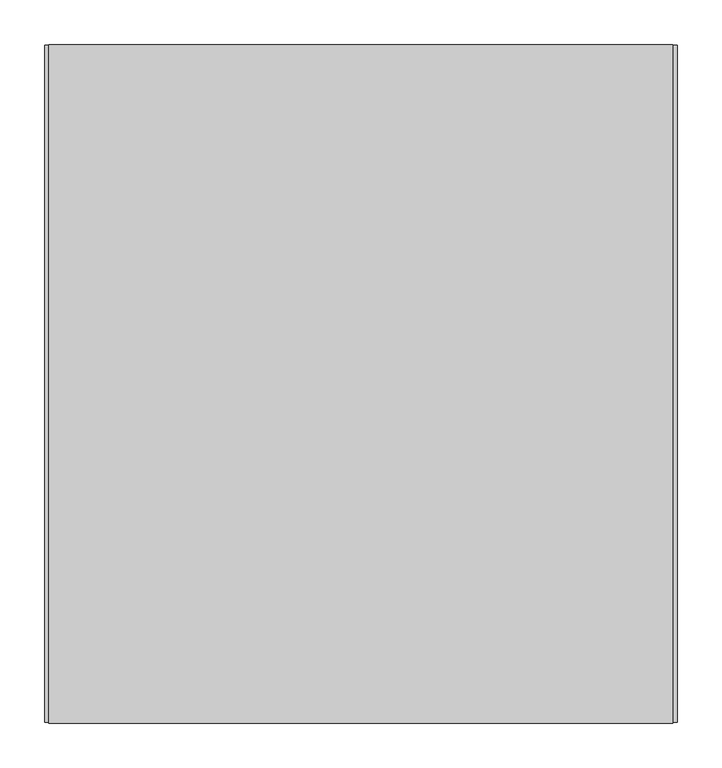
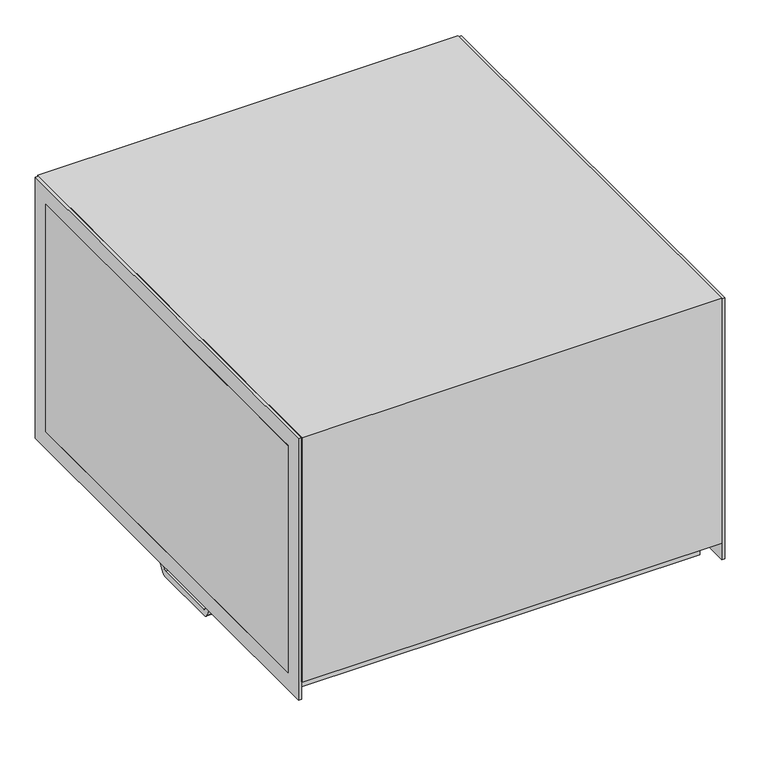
"""IFC4 building model written with IfcOpenShell, lengths in millimetres: unitary equipment geometry, VE-Wentylator-ParaForma-Harmann-DRBI_EC-Nawiewny : 070/40/4900EC."""

import ifcopenshell
import ifcopenshell.guid

model = None  # the IFC model being written
_history = None  # IfcOwnerHistory: only IFC2X3 demands one
_inside = {}  # id of a spatial element -> (the spatial element, [elements in it])
_under = {}  # id of a project, library or spatial element -> (it, [spatial elements below it])
_declared = {}  # id of a project -> (the project, [libraries it declares])
_typed = {}  # id of a type object -> (the type object, [elements of that type])
_made_of = {}  # id of a material, layer set ... -> (it, [elements and type objects made of it])


def new_model(schema):
    """Start an empty IFC model of exactly this schema.

    Asked for "IFC4X3", IfcOpenShell would pick the latest addendum, in which some entities
    have other attributes; the version numbers below select the first issue.
    IFC2X3 requires an IfcOwnerHistory on every rooted entity: one is made here for all.
    """
    global model, _history
    if schema == "IFC4X3":
        model = ifcopenshell.file(schema_version=(4, 3, 0, 0))
    else:
        model = ifcopenshell.file(schema=schema)
    _inside.clear()
    _under.clear()
    _declared.clear()
    _typed.clear()
    _made_of.clear()
    _history = None
    if model.schema == "IFC2X3":
        org = make("IfcOrganization", Name="unknown")
        user = make(
            "IfcPersonAndOrganization",
            ThePerson=make("IfcPerson", FamilyName="unknown"),
            TheOrganization=org,
        )
        app = make(
            "IfcApplication",
            ApplicationDeveloper=org,
            Version="unknown",
            ApplicationFullName="unknown",
            ApplicationIdentifier="unknown",
        )
        _history = make(
            "IfcOwnerHistory",
            OwningUser=user,
            OwningApplication=app,
            ChangeAction="ADDED",
            CreationDate=0,
        )
    return model


def make(cls, **values):
    """One entity of the class cls with the attributes given. An attribute that is None is left unset."""
    return model.create_entity(
        cls, **{name: value for name, value in values.items() if value is not None}
    )


def rooted(cls, **values):
    """An entity with a GlobalId (a new one), such as an element, a storey or a relation."""
    return make(cls, GlobalId=ifcopenshell.guid.new(), OwnerHistory=_history, **values)


def si_unit(unit_type, name, prefix=None):
    """IfcSIUnit, for example si_unit("LENGTHUNIT", "METRE", prefix="MILLI")."""
    return make("IfcSIUnit", UnitType=unit_type, Prefix=prefix, Name=name)


def assignment(units):
    """IfcUnitAssignment: the units of a project."""
    return None if units is None else make("IfcUnitAssignment", Units=units)


def point(xyz):
    """IfcCartesianPoint."""
    return None if xyz is None else make("IfcCartesianPoint", Coordinates=xyz)


def direction(xyz):
    """IfcDirection."""
    return None if xyz is None else make("IfcDirection", DirectionRatios=xyz)


def frame(location, z_axis=None, x_axis=None):
    """IfcAxis2Placement3D, a coordinate frame: its origin and axes. An axis left out is left unset."""
    return make(
        "IfcAxis2Placement3D",
        Location=point(location),
        Axis=direction(z_axis),
        RefDirection=direction(x_axis),
    )


def frame_2d(location, x_axis=None):
    """IfcAxis2Placement2D, a coordinate frame in the plane: its origin and x axis."""
    return make(
        "IfcAxis2Placement2D", Location=point(location), RefDirection=direction(x_axis)
    )


def origin():
    """The frame at (0, 0, 0) with its axes left unset."""
    return frame((0.0, 0.0, 0.0))


def place(relative_to, where):
    """IfcLocalPlacement: puts the frame where relative to a parent placement (None: the world)."""
    return make(
        "IfcLocalPlacement", PlacementRelTo=relative_to, RelativePlacement=where
    )


def context(
    kind, dimensions, precision=None, world=None, true_north=None, identifier=None
):
    """IfcGeometricRepresentationContext, for example the 3D "Model" context."""
    return make(
        "IfcGeometricRepresentationContext",
        ContextIdentifier=identifier,
        ContextType=kind,
        CoordinateSpaceDimension=dimensions,
        Precision=precision,
        WorldCoordinateSystem=world,
        TrueNorth=true_north,
    )


def project(units=None, contexts=None):
    """IfcProject with its units and contexts."""
    return rooted(
        "IfcProject",
        Name="project",
        RepresentationContexts=contexts,
        UnitsInContext=assignment(units),
    )


def spatial(cls, under=None, at=None, **own):
    """A site, building, storey or space (cls), placed at a placement, below another one or the project."""
    s = rooted(cls, ObjectPlacement=at, **own)
    if under is not None:
        _under.setdefault(under.id(), (under, []))[1].append(s)
    return s


def polyline(points):
    """IfcPolyline through the points."""
    return make("IfcPolyline", Points=[point(p) for p in points])


def circle_curve(where, radius):
    """IfcCircle in the frame where."""
    return make("IfcCircle", Position=where, Radius=radius)


def trimmed(basis, trim1, trim2, sense, master):
    """IfcTrimmedCurve: the piece of a basis curve between two trims."""
    return make(
        "IfcTrimmedCurve",
        BasisCurve=basis,
        Trim1=trim1,
        Trim2=trim2,
        SenseAgreement=sense,
        MasterRepresentation=master,
    )


def segment(curve, same_sense, transition):
    """IfcCompositeCurveSegment."""
    return make(
        "IfcCompositeCurveSegment",
        Transition=transition,
        SameSense=same_sense,
        ParentCurve=curve,
    )


def composite_curve(segments, self_intersect=None):
    """IfcCompositeCurve: segments joined end to end."""
    return make("IfcCompositeCurve", Segments=segments, SelfIntersect=self_intersect)


def outline(outer, holes=None, kind="AREA"):
    """IfcArbitraryClosedProfileDef: a profile drawn as a closed curve; with holes, ...WithVoids."""
    if holes is None:
        return make("IfcArbitraryClosedProfileDef", ProfileType=kind, OuterCurve=outer)
    return make(
        "IfcArbitraryProfileDefWithVoids",
        ProfileType=kind,
        OuterCurve=outer,
        InnerCurves=holes,
    )


def extrude(swept, where, along, depth):
    """IfcExtrudedAreaSolid: the profile swept, set in the frame where, extruded along a direction by depth."""
    return make(
        "IfcExtrudedAreaSolid",
        SweptArea=swept,
        Position=where,
        ExtrudedDirection=direction(along),
        Depth=depth,
    )


def faces_of(points, faces, orient=None, outer=None):
    """IfcFace entities. A face is a list of loops; a loop is a list of indices into points, from 0.

    orient and outer hold one flag for each loop. By default every Orientation is true, the
    first loop of a face is its IfcFaceOuterBound and the others are IfcFaceBound.
    """
    made = []
    for i, loops in enumerate(faces):
        bounds = []
        for j, loop in enumerate(loops):
            is_outer = j == 0 if outer is None else outer[i][j]
            bounds.append(
                make(
                    "IfcFaceOuterBound" if is_outer else "IfcFaceBound",
                    Bound=make("IfcPolyLoop", Polygon=[points[k] for k in loop]),
                    Orientation=True if orient is None else orient[i][j],
                )
            )
        made.append(make("IfcFace", Bounds=bounds))
    return made


def faceted_brep(points, faces, orient=None, outer=None, voids=None):
    """IfcFacetedBrep: a solid bounded by flat faces; with voids (closed shells), ...WithVoids."""
    shared = [point(p) for p in points]
    hull = make("IfcClosedShell", CfsFaces=faces_of(shared, faces, orient, outer))
    if voids is None:
        return make("IfcFacetedBrep", Outer=hull)
    return make(
        "IfcFacetedBrepWithVoids",
        Outer=hull,
        Voids=[
            make(cls, CfsFaces=faces_of(shared, fs, o, b)) for cls, fs, o, b in voids
        ],
    )


def shape(context_of_items, identifier, shape_type, items):
    """IfcShapeRepresentation: the items that make up one representation, for example the "Body"."""
    return make(
        "IfcShapeRepresentation",
        ContextOfItems=context_of_items,
        RepresentationIdentifier=identifier,
        RepresentationType=shape_type,
        Items=items,
    )


def source(mapping_origin, context_of_items, identifier, shape_type, items):
    """IfcRepresentationMap: a shape defined once, which mapped items show again and again."""
    return make(
        "IfcRepresentationMap",
        MappingOrigin=mapping_origin,
        MappedRepresentation=shape(context_of_items, identifier, shape_type, items),
    )


def transform(
    local_origin,
    x_axis=None,
    y_axis=None,
    z_axis=None,
    scale=None,
    scale2=None,
    scale3=None,
    uniform=True,
):
    """IfcCartesianTransformationOperator3D, or its non-uniform kind. x_axis, y_axis, z_axis: its Axis1, 2, 3."""
    if uniform:
        return make(
            "IfcCartesianTransformationOperator3D",
            Axis1=direction(x_axis),
            Axis2=direction(y_axis),
            LocalOrigin=point(local_origin),
            Scale=scale,
            Axis3=direction(z_axis),
        )
    return make(
        "IfcCartesianTransformationOperator3DnonUniform",
        Axis1=direction(x_axis),
        Axis2=direction(y_axis),
        LocalOrigin=point(local_origin),
        Scale=scale,
        Axis3=direction(z_axis),
        Scale2=scale2,
        Scale3=scale3,
    )


def mapped(mapping_source, mapping_target):
    """IfcMappedItem: shows the shape of a source again, moved by a transform."""
    return make(
        "IfcMappedItem", MappingSource=mapping_source, MappingTarget=mapping_target
    )


def made_of(thing, what):
    """Note that an element or type object is made of a material, layer set ...; save() writes the relation."""
    if what is not None:
        _made_of.setdefault(what.id(), (what, []))[1].append(thing)
    return thing


def element(
    cls,
    number,
    at=None,
    inside=None,
    cuts=None,
    type_object=None,
    material=None,
    context=None,
    identifier="Body",
    shape_type=None,
    held_by="IfcProductDefinitionShape",
    body=None,
    shapes=None,
    **own,
):
    """One element of the class cls, such as IfcWall. Its Tag is "e" and its number.

    at: its placement. inside: the storey or other place that contains it. cuts: it is an
    opening in that element (IfcRelVoidsElement). A single representation is given by context,
    identifier, shape_type and body (its items); several are given by shapes. held_by: the class
    of the entity that holds the representations. save() writes the other relations.
    """
    e = rooted(cls, Tag="e%d" % number, ObjectPlacement=at, **own)
    if body is not None:
        shapes = [shape(context, identifier, shape_type, body)]
    if shapes is not None:
        e.Representation = make(held_by, Representations=shapes)
    if inside is not None:
        _inside.setdefault(inside.id(), (inside, []))[1].append(e)
    if cuts is not None:
        rooted(
            "IfcRelVoidsElement", RelatingBuildingElement=cuts, RelatedOpeningElement=e
        )
    if type_object is not None:
        _typed.setdefault(type_object.id(), (type_object, []))[1].append(e)
    return made_of(e, material)


def aggregate(whole, parts):
    """IfcRelAggregates: a whole, such as a stair, and the parts it consists of."""
    return rooted("IfcRelAggregates", RelatingObject=whole, RelatedObjects=parts)


def save(model, path):
    """Write the relations noted so far, then the file.

    IfcRelAggregates (storeys below a building ...), IfcRelContainedInSpatialStructure (elements
    in a storey), IfcRelDefinesByType, IfcRelAssociatesMaterial and IfcRelDeclares: one each for
    every whole, place, type object, material and project.
    """
    for whole, parts in _under.values():
        aggregate(whole, parts)
    for where, things in _inside.values():
        rooted(
            "IfcRelContainedInSpatialStructure",
            RelatedElements=things,
            RelatingStructure=where,
        )
    for kind, things in _typed.values():
        rooted("IfcRelDefinesByType", RelatedObjects=things, RelatingType=kind)
    for what, things in _made_of.values():
        rooted("IfcRelAssociatesMaterial", RelatedObjects=things, RelatingMaterial=what)
    for by, libraries in _declared.values():
        rooted("IfcRelDeclares", RelatingContext=by, RelatedDefinitions=libraries)
    model.write(path)


def unitary_equipment_9d74fd59(model_context):
    return source(origin(), model_context, "Body", "SolidModel", [
        faceted_brep([(-342.9, -346.5, -235.5), (-342.9, -346.5, -200.0), (-342.9, 349.0, -200.0), (-342.9, 349.0, -235.5), (333.3, -346.5, -235.5), (333.3, 349.0, -235.5), (333.3, 349.0, -200.0), (333.3, -346.5, -200.0), (-350.0, -381.0, -200.0), (-350.0, -381.0, 231.0), (-350.0, 381.0, 231.0), (-350.0, 381.0, -200.0), (-350.0, 350.0, -200.0), (-350.0, 350.0, 200.0), (-350.0, -350.0, 200.0), (-350.0, -350.0, -200.0), (350.0, 381.0, -200.0), (350.0, 381.0, 231.0), (350.0, -381.0, 231.0), (350.0, -381.0, -200.0), (350.0, -350.0, -200.0), (350.0, -350.0, 200.0), (350.0, 350.0, 200.0), (350.0, 350.0, -200.0), (-355.0, -350.0, -200.0), (-355.0, 350.0, -200.0), (355.0, 350.0, -200.0), (355.0, -350.0, -200.0), (-355.0, -350.0, 200.0), (-355.0, 350.0, 200.0), (355.0, 350.0, 200.0), (355.0, -350.0, 200.0)], [[[0, 1, 2, 3]], [[4, 5, 6, 7]], [[1, 0, 4, 7]], [[3, 2, 6, 5]], [[0, 3, 5, 4]], [[8, 9, 10, 11, 12, 13, 14, 15]], [[16, 17, 18, 19, 20, 21, 22, 23]], [[9, 8, 19, 18]], [[10, 9, 18, 17]], [[11, 10, 17, 16]], [[19, 8, 15, 24, 25, 12, 11, 16, 23, 26, 27, 20], [2, 1, 7, 6]], [[24, 28, 29, 25]], [[28, 24, 15, 14]], [[29, 28, 14, 13]], [[25, 29, 13, 12]], [[27, 26, 30, 31]], [[27, 31, 21, 20]], [[31, 30, 22, 21]], [[30, 26, 23, 22]]]),
        extrude(outline(polyline([(-380.0, -230.0), (-380.0, 230.0), (380.0, 230.0), (380.0, -230.0), (-380.0, -230.0)]), holes=[polyline([(-350.0, -200.0), (350.0, -200.0), (350.0, 200.0), (-350.0, 200.0), (-350.0, -200.0)])]), frame((350.0, 0.0, 0.0), z_axis=(1.0, 0.0, 0.0), x_axis=(0.0, 1.0, 0.0)), (0.0, 0.0, 1.0), 5.0),
        extrude(outline(polyline([(-380.0, -230.0), (-380.0, 230.0), (380.0, 230.0), (380.0, -230.0), (-380.0, -230.0)]), holes=[polyline([(-350.0, -200.0), (350.0, -200.0), (350.0, 200.0), (-350.0, 200.0), (-350.0, -200.0)])]), frame((-355.0, 0.0, 0.0), z_axis=(1.0, 0.0, 0.0), x_axis=(0.0, 1.0, 0.0)), (0.0, 0.0, 1.0), 5.0),
        extrude(outline(composite_curve([segment(polyline([(-85.0, -248.5), (-85.0, -235.5), (-60.0, -235.5), (-60.0, -272.5)]), True, "CONTINUOUS"), segment(trimmed(circle_curve(frame_2d((-55.0, -272.5)), 5.0), [point((-60.0, -272.5))], [point((-55.0, -277.5))], True, "CARTESIAN"), True, "CONTINUOUS"), segment(polyline([(-55.0, -277.5), (55.0, -277.5)]), True, "CONTINUOUS"), segment(trimmed(circle_curve(frame_2d((55.0, -272.5)), 5.0), [point((55.0, -277.5))], [point((60.0, -272.5))], True, "CARTESIAN"), True, "CONTINUOUS"), segment(polyline([(60.0, -272.5), (60.0, -235.5), (85.0, -235.5), (85.0, -248.5), (61.4754291, -285.1983306)]), True, "CONTINUOUS"), segment(trimmed(circle_curve(frame_2d((57.2660334, -282.5)), 5.0), [point((61.4754291, -285.1983306))], [point((57.2660334, -287.5))], False, "CARTESIAN"), True, "CONTINUOUS"), segment(polyline([(57.2660334, -287.5), (-57.2660334, -287.5)]), True, "CONTINUOUS"), segment(trimmed(circle_curve(frame_2d((-57.2660334, -282.5)), 5.0), [point((-57.2660334, -287.5))], [point((-61.4754291, -285.1983306))], False, "CARTESIAN"), True, "CONTINUOUS"), segment(polyline([(-61.4754291, -285.1983306), (-85.0, -248.5)]), True, "CONTINUOUS")], self_intersect=False)), frame((-325.4, 0.0, 0.0), z_axis=(1.0, 0.0, 0.0), x_axis=(0.0, 1.0, 0.0)), (0.0, 0.0, 1.0), 28.0),
        extrude(outline(composite_curve([segment(polyline([(320.2, -27.5), (235.2, -27.5)]), True, "CONTINUOUS"), segment(trimmed(circle_curve(frame_2d((235.2, -22.5)), 5.0), [point((235.2, -27.5))], [point((230.2, -22.5))], False, "CARTESIAN"), True, "CONTINUOUS"), segment(polyline([(230.2, -22.5), (230.2, 77.5)]), True, "CONTINUOUS"), segment(trimmed(circle_curve(frame_2d((235.2, 77.5)), 5.0), [point((230.2, 77.5))], [point((235.2, 82.5))], False, "CARTESIAN"), True, "CONTINUOUS"), segment(polyline([(235.2, 82.5), (320.2, 82.5)]), True, "CONTINUOUS"), segment(trimmed(circle_curve(frame_2d((320.2, 77.5)), 5.0), [point((320.2, 82.5))], [point((325.2, 77.5))], False, "CARTESIAN"), True, "CONTINUOUS"), segment(polyline([(325.2, 77.5), (325.2, -22.5)]), True, "CONTINUOUS"), segment(trimmed(circle_curve(frame_2d((320.2, -22.5)), 5.0), [point((325.2, -22.5))], [point((320.2, -27.5))], False, "CARTESIAN"), True, "CONTINUOUS")], self_intersect=False)), frame((0.0, 0.0, -285.0), z_axis=(0.0, 0.0, 1.0), x_axis=(1.0, 0.0, 0.0)), (0.0, 0.0, 1.0), 49.5),
    ])


if __name__ == "__main__":
    model = new_model("IFC4")
    model_context = context("Model", 3, world=origin())
    ifc_project = project(units=[si_unit("LENGTHUNIT", "METRE", prefix="MILLI")], contexts=[model_context])
    site = spatial("IfcSite", under=ifc_project)
    building = spatial("IfcBuilding", under=site)
    placement = place(None, origin())
    unitary_equipment_shape = unitary_equipment_9d74fd59(model_context)
    element("IfcUnitaryEquipment", 1, ObjectType="VE-Wentylator-ParaForma-Harmann-DRBI_EC-Nawiewny : 070/40/4900EC", at=placement, inside=building, context=model_context, shape_type="MappedRepresentation", body=[
        mapped(unitary_equipment_shape, transform((0.0, 0.0, 0.0), x_axis=(1.0, 0.0, 0.0), y_axis=(0.0, 1.0, 0.0), z_axis=(0.0, 0.0, 1.0))),
    ])
    save(model, "model.ifc")
